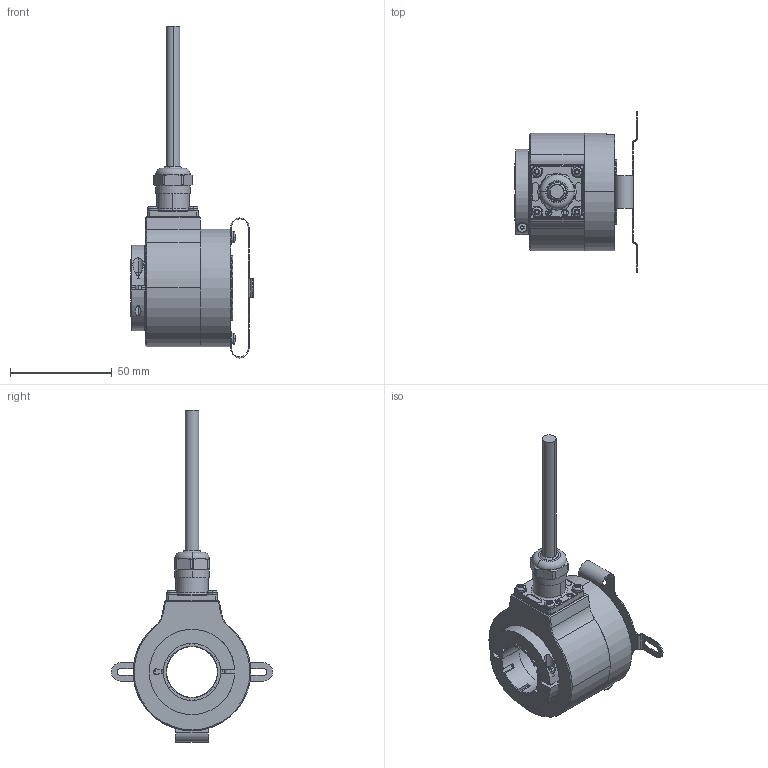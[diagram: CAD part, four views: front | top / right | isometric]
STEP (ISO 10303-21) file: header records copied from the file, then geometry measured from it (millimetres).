
FILE_DESCRIPTION (( 'STEP AP203' ), '1' );
FILE_NAME ('K58I.OXX.XXXXX.XC16525.XXR11.XXXX.step', '2025-12-03T07:32:58', ( '' ), ( '' ), 'SwSTEP 2.0', 'SolidWorks 2021', '' );
FILE_SCHEMA (( 'CONFIG_CONTROL_DESIGN' ));
Length unit declared in the file: millimetre
Products named in the file (1): K58I.OXX.XXXXX.XC16525.XXR11.XXXX
Bounding box: 60.2 x 79.4 x 163.5 mm (x, y, z)
Volume: 111327.3 mm3; surface area: 48835.9 mm2
Topology: 10 solids, 10 shells, 719 faces, 1823 edges, 1137 vertices
Faces by surface type: cylinder 325, plane 223, cone 72, bspline 48, torus 35, sphere 16
Entity records: 24221 total; most frequent: CARTESIAN_POINT 6900, DIRECTION 3678, ORIENTED_EDGE 3622, EDGE_CURVE 1811, AXIS2_PLACEMENT_3D 1429, VERTEX_POINT 1137, VECTOR 820, LINE 820
